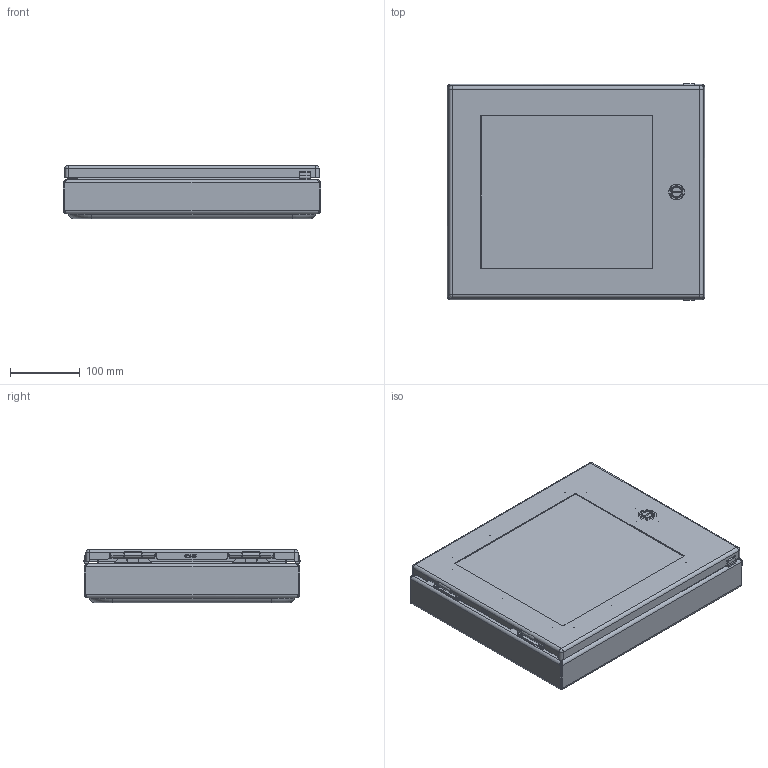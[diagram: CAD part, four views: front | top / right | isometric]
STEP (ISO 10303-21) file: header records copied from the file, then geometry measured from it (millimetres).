
FILE_DESCRIPTION (( 'STEP AP203' ), '1' );
FILE_NAME ('awdh1418n4ss.STEP', '2021-07-19T14:08:39', ( '' ), ( '' ), 'SwSTEP 2.0', 'SolidWorks 2016', '' );
FILE_SCHEMA (( 'CONFIG_CONTROL_DESIGN' ));
Length unit declared in the file: inch
Products named in the file (34): 89082378; 87846295_PEM WNS-M6-0 ---C; 87782414; 89144636_96194A101; 64203001; 64138001; 87928711; 64101002; 89067304_B18.6.7M - M5 x 0.8 x 16 Type I Cross Recessed FHMS --16N; 87927840_87927840; 89044780; 89076193; 89044773_Main; 87932266; 89044787; 64210001; 89044803; 87782413; 64202002; 89082408; 89159232; 99414350; 87541995; 87751114_87751114; 89044827; 87543026; 87929769_Installed on Pin; 87930615; 64201001; 89131630; awdh1418n4ss; 89076399; 89117469; 89082393
Assembly tree (81 placements, depth 4):
  awdh1418n4ss
    89044803
      89117469
      99414350
      89044827
      87846295_PEM WNS-M6-0 ---C  x12
    89159232
      89044773_Main
        89044780
        87751114_87751114  x16
        89044787
      64101002
        64201001
        87932266
        87541995
        64202002
        64210001
        64203001
        87927840_87927840
      89144636_96194A101  x16
      64138001  x2
      89082393
        89082378
        89082408
      87782414  x2
      87782413  x2
    87543026  x2
    89076399  x2
      89076193
      89131630
    87930615  x2
      87928711
      87929769_Installed on Pin
    89067304_B18.6.7M - M5 x 0.8 x 16 Type I Cross Recessed FHMS --16N  x2
Bounding box: 369.82 x 310.9 x 76.83 mm (x, y, z)
Volume: 1014440.7 mm3; surface area: 781513.2 mm2
Topology: 76 solids, 76 shells, 4088 faces, 10558 edges, 6691 vertices
Faces by surface type: plane 2070, cylinder 1114, bspline 370, cone 358, torus 164, sphere 12
Entity records: 64162 total; most frequent: CARTESIAN_POINT 24412, ORIENTED_EDGE 7714, DIRECTION 6461, EDGE_CURVE 3857, VERTEX_POINT 2415, AXIS2_PLACEMENT_3D 2232, LINE 1997, VECTOR 1997
